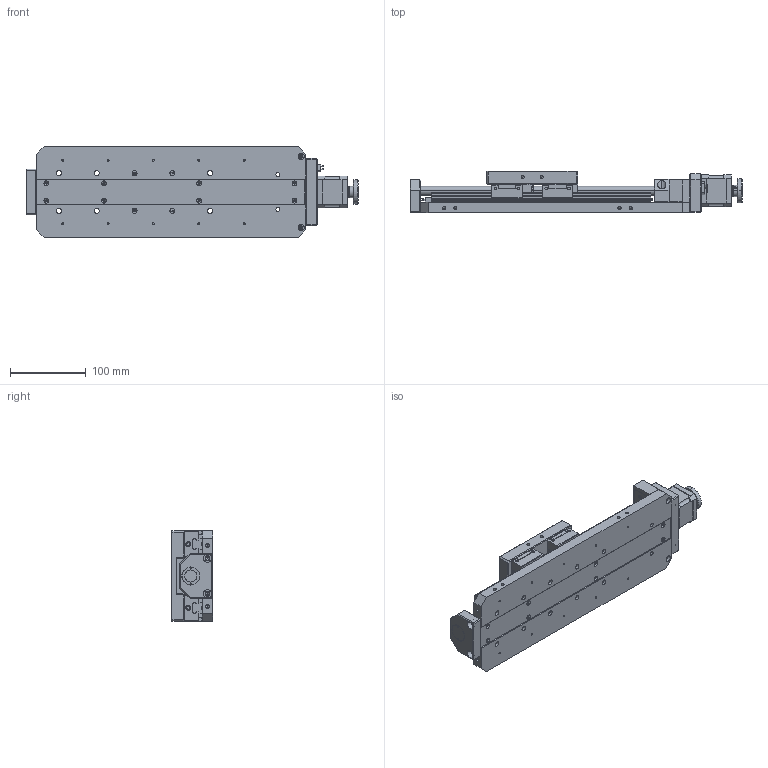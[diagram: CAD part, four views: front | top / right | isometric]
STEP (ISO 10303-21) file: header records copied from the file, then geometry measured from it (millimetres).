
FILE_DESCRIPTION (( 'STEP AP214' ), '1' );
FILE_NAME ('PT-GD140G(150).STEP', '2022-09-18T03:00:32', ( '' ), ( '' ), 'SwSTEP 2.0', 'SolidWorks 2017', '' );
FILE_SCHEMA (( 'AUTOMOTIVE_DESIGN' ));
Length unit declared in the file: millimetre
Products named in the file (1): PT-GD140G(150)
Bounding box: 439 x 55 x 120 mm (x, y, z)
Volume: 1166363.7 mm3; surface area: 354381.5 mm2
Topology: 32 solids, 32 shells, 2226 faces, 5989 edges, 3756 vertices
Faces by surface type: plane 934, cylinder 865, bspline 213, cone 197, torus 17
Entity records: 87104 total; most frequent: CARTESIAN_POINT 20418, ORIENTED_EDGE 11484, DIRECTION 11273, EDGE_CURVE 5742, AXIS2_PLACEMENT_3D 4087, VERTEX_POINT 3750, VECTOR 3099, LINE 3099
